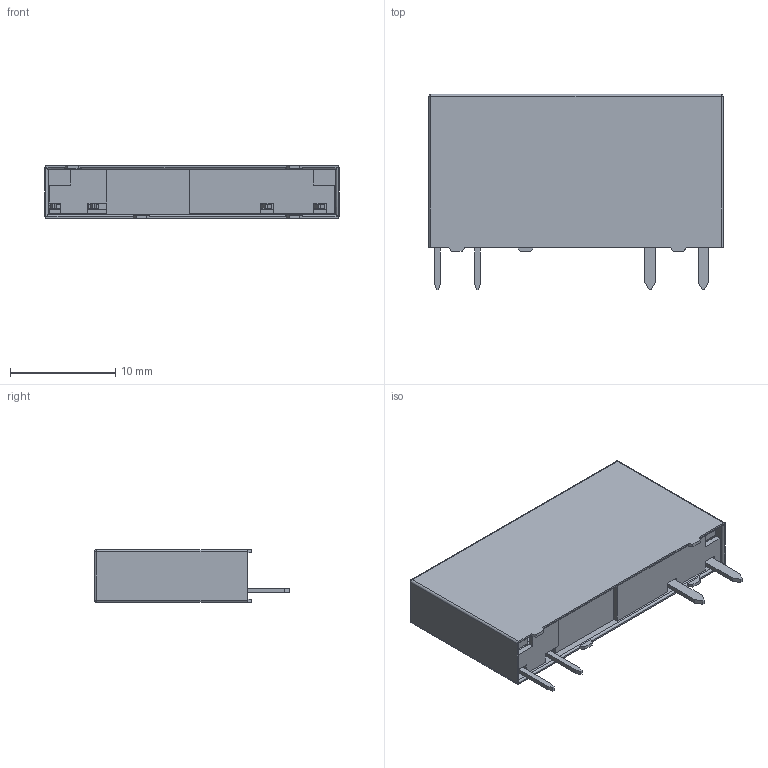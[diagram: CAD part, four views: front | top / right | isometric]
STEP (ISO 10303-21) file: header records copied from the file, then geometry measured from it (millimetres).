
FILE_DESCRIPTION(('FreeCAD Model'),'2;1');
FILE_NAME('C:/Users/Metaltex-99/Desktop/JZC.stp','2020-11-05T10:07:31',( 'Engenharia Metaltex'),('Metaltex'), 'Open CASCADE STEP processor 7.3','FreeCAD','Unknown');
FILE_SCHEMA(('AUTOMOTIVE_DESIGN { 1 0 10303 214 1 1 1 1 }'));
Length unit declared in the file: millimetre
Products named in the file (1): JZC
Bounding box: 27.9 x 18.52 x 4.99 mm (x, y, z)
Volume: 724.9 mm3; surface area: 3789.9 mm2
Topology: 10 solids, 10 shells, 181 faces, 1399 edges, 4015 vertices
Faces by surface type: plane 161, cylinder 15, sphere 5
Full cylindrical faces by diameter (mm): 1.5 x1, 2 x1
Entity records: 23837 total; most frequent: CARTESIAN_POINT 6878, DIRECTION 2738, LINE 2149, VECTOR 2149, GEOMETRIC_CURVE_SET 932, ORIENTED_EDGE 926, PCURVE 926, DEFINITIONAL_REPRESENTATION 926
